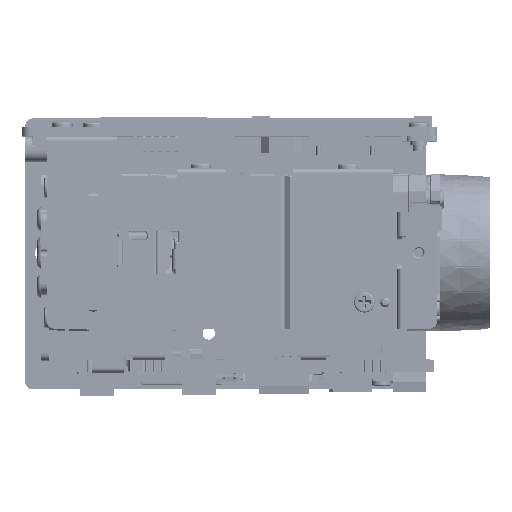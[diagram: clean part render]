
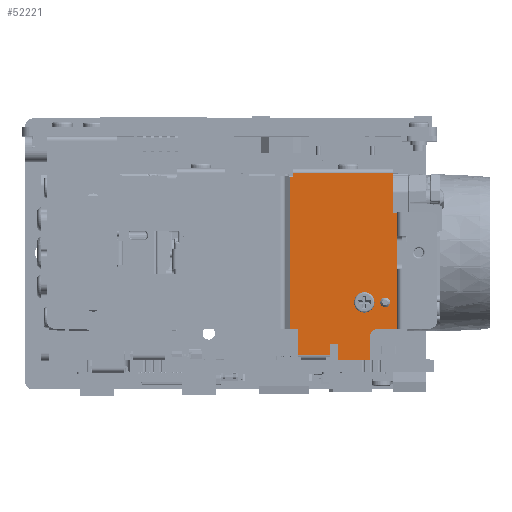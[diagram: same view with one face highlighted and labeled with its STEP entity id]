
A CAD part, top view. The second image highlights one B-rep face of the part: STEP entity #52221.
In plain terms, the highlighted planar face has unit normal (0, 0, 1) as drawn and (0, 1, 0) by its records, which use the part's own axes.
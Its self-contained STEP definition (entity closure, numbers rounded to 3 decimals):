
#42927 = EDGE_CURVE( '', #96964, #96965, #96966, .T. );
#43021 = EDGE_CURVE( '', #97111, #97112, #97113, .T. );
#43754 = EDGE_CURVE( '', #98285, #98286, #98287, .T. );
#49895 = EDGE_CURVE( '', #100875, #107837, #107838, .T. );
#50829 = EDGE_CURVE( '', #109273, #109273, #109274, .T. );
#52221 = ADVANCED_FACE( '', ( #111438, #111439, #111440 ), #111441, .F. );
#53229 = EDGE_CURVE( '', #100642, #97112, #112984, .T. );
#53245 = EDGE_CURVE( '', #103213, #113007, #113008, .T. );
#53663 = EDGE_CURVE( '', #113636, #103213, #113637, .T. );
#54153 = EDGE_CURVE( '', #114374, #98285, #114375, .T. );
#56518 = EDGE_CURVE( '', #113007, #117923, #117924, .T. );
#58389 = EDGE_CURVE( '', #97111, #114374, #120739, .T. );
#59863 = EDGE_CURVE( '', #92799, #122929, #122930, .T. );
#61836 = EDGE_CURVE( '', #122929, #125857, #125858, .T. );
#66226 = EDGE_CURVE( '', #100642, #125857, #132376, .T. );
#66350 = EDGE_CURVE( '', #117923, #92799, #132571, .T. );
#67331 = EDGE_CURVE( '', #134027, #134027, #134028, .T. );
#74687 = EDGE_CURVE( '', #107837, #98286, #144831, .T. );
#81719 = EDGE_CURVE( '', #96964, #100875, #155170, .T. );
#82209 = EDGE_CURVE( '', #96965, #113636, #155889, .T. );
#92799 = VERTEX_POINT( '', #163377 );
#96964 = VERTEX_POINT( '', #173681 );
#96965 = VERTEX_POINT( '', #173682 );
#96966 = LINE( '', #173683, #173684 );
#97111 = VERTEX_POINT( '', #174153 );
#97112 = VERTEX_POINT( '', #174154 );
#97113 = LINE( '', #174155, #174156 );
#98285 = VERTEX_POINT( '', #176603 );
#98286 = VERTEX_POINT( '', #176604 );
#98287 = LINE( '', #176605, #176606 );
#100642 = VERTEX_POINT( '', #181364 );
#100875 = VERTEX_POINT( '', #181906 );
#103213 = VERTEX_POINT( '', #186221 );
#107837 = VERTEX_POINT( '', #197109 );
#107838 = LINE( '', #197110, #197111 );
#109273 = VERTEX_POINT( '', #200469 );
#109274 = CIRCLE( '', #200470, 0.8 );
#111438 = FACE_OUTER_BOUND( '', #208188, .T. );
#111439 = FACE_BOUND( '', #208189, .T. );
#111440 = FACE_BOUND( '', #208190, .T. );
#111441 = PLANE( '', #208191 );
#112984 = LINE( '', #212525, #212526 );
#113007 = VERTEX_POINT( '', #212579 );
#113008 = LINE( '', #212580, #212581 );
#113636 = VERTEX_POINT( '', #214076 );
#113637 = LINE( '', #214077, #214078 );
#114374 = VERTEX_POINT( '', #215602 );
#114375 = LINE( '', #215603, #215604 );
#117923 = VERTEX_POINT( '', #223721 );
#117924 = LINE( '', #223722, #223723 );
#120739 = LINE( '', #231299, #231300 );
#122929 = VERTEX_POINT( '', #236449 );
#122930 = LINE( '', #236450, #236451 );
#125857 = VERTEX_POINT( '', #243362 );
#125858 = LINE( '', #243363, #243364 );
#132376 = CIRCLE( '', #260991, 1. );
#132571 = LINE( '', #261207, #261208 );
#134027 = VERTEX_POINT( '', #264501 );
#134028 = CIRCLE( '', #264502, 0.6 );
#144831 = LINE( '', #290897, #290898 );
#155170 = LINE( '', #321702, #321703 );
#155889 = LINE( '', #323079, #323080 );
#163377 = CARTESIAN_POINT( '', ( -14.4, 11.4, 34.604 ) );
#173681 = CARTESIAN_POINT( '', ( -9.5, 11.4, 28.604 ) );
#173682 = CARTESIAN_POINT( '', ( -9.5, 11.4, 29.604 ) );
#173683 = CARTESIAN_POINT( '', ( -9.5, 11.4, 28.604 ) );
#173684 = VECTOR( '', #342866, 1000. );
#174153 = CARTESIAN_POINT( '', ( 5., 11.4, 42.004 ) );
#174154 = CARTESIAN_POINT( '', ( -9.5, 11.4, 42.004 ) );
#174155 = CARTESIAN_POINT( '', ( 5., 11.4, 42.004 ) );
#174156 = VECTOR( '', #343184, 1000. );
#176603 = CARTESIAN_POINT( '', ( 9.9, 11.4, 41.504 ) );
#176604 = CARTESIAN_POINT( '', ( 9.9, 11.4, 29.004 ) );
#176605 = CARTESIAN_POINT( '', ( 9.9, 11.4, 41.504 ) );
#176606 = VECTOR( '', #346320, 1000. );
#181364 = CARTESIAN_POINT( '', ( -9.5, 11.4, 39.604 ) );
#181906 = CARTESIAN_POINT( '', ( 9.5, 11.4, 28.604 ) );
#186221 = CARTESIAN_POINT( '', ( -12.8, 11.4, 33.604 ) );
#197109 = CARTESIAN_POINT( '', ( 9.5, 11.4, 29.004 ) );
#197110 = CARTESIAN_POINT( '', ( 9.5, 11.4, 28.604 ) );
#197111 = VECTOR( '', #370563, 1000. );
#200469 = CARTESIAN_POINT( '', ( -6.2, 11.4, 37.104 ) );
#200470 = AXIS2_PLACEMENT_3D( '', #374309, #374310, #374311 );
#208188 = EDGE_LOOP( '', ( #380262, #380263, #380264, #380265, #380266, #380267, #380268, #380269, #380270, #380271, #380272, #380273, #380274, #380275, #380276, #380277, #380278 ) );
#208189 = EDGE_LOOP( '', ( #380279 ) );
#208190 = EDGE_LOOP( '', ( #380280 ) );
#208191 = AXIS2_PLACEMENT_3D( '', #380281, #380282, #380283 );
#212525 = CARTESIAN_POINT( '', ( -9.5, 11.4, 39.604 ) );
#212526 = VECTOR( '', #384407, 1000. );
#212579 = CARTESIAN_POINT( '', ( -11.4, 11.4, 33.604 ) );
#212580 = CARTESIAN_POINT( '', ( -12.8, 11.4, 33.604 ) );
#212581 = VECTOR( '', #384462, 1000. );
#214076 = CARTESIAN_POINT( '', ( -12.8, 11.4, 29.604 ) );
#214077 = CARTESIAN_POINT( '', ( -12.8, 11.4, 29.604 ) );
#214078 = VECTOR( '', #386088, 1000. );
#215602 = CARTESIAN_POINT( '', ( 5., 11.4, 41.504 ) );
#215603 = CARTESIAN_POINT( '', ( 5., 11.4, 41.504 ) );
#215604 = VECTOR( '', #388097, 1000. );
#223721 = CARTESIAN_POINT( '', ( -11.4, 11.4, 34.604 ) );
#223722 = CARTESIAN_POINT( '', ( -11.4, 11.4, 33.604 ) );
#223723 = VECTOR( '', #397583, 1000. );
#231299 = CARTESIAN_POINT( '', ( 5., 11.4, 42.004 ) );
#231300 = VECTOR( '', #404795, 1000. );
#236449 = CARTESIAN_POINT( '', ( -14.4, 11.4, 38.604 ) );
#236450 = CARTESIAN_POINT( '', ( -14.4, 11.4, 34.604 ) );
#236451 = VECTOR( '', #410436, 1000. );
#243362 = CARTESIAN_POINT( '', ( -10.5, 11.4, 38.604 ) );
#243363 = CARTESIAN_POINT( '', ( -14.4, 11.4, 38.604 ) );
#243364 = VECTOR( '', #418299, 1000. );
#260991 = AXIS2_PLACEMENT_3D( '', #435697, #435698, #435699 );
#261207 = CARTESIAN_POINT( '', ( -11.4, 11.4, 34.604 ) );
#261208 = VECTOR( '', #436195, 1000. );
#264501 = CARTESIAN_POINT( '', ( -5.6, 11.4, 40.504 ) );
#264502 = AXIS2_PLACEMENT_3D( '', #440121, #440122, #440123 );
#290897 = CARTESIAN_POINT( '', ( 9.5, 11.4, 29.004 ) );
#290898 = VECTOR( '', #469512, 1000. );
#321702 = CARTESIAN_POINT( '', ( -9.5, 11.4, 28.604 ) );
#321703 = VECTOR( '', #498241, 1000. );
#323079 = CARTESIAN_POINT( '', ( -9.5, 11.4, 29.604 ) );
#323080 = VECTOR( '', #500140, 1000. );
#342866 = DIRECTION( '', ( 0., 0., 1. ) );
#343184 = DIRECTION( '', ( -1., 0., 0. ) );
#346320 = DIRECTION( '', ( 0., 0., -1. ) );
#370563 = DIRECTION( '', ( 0., 0., 1. ) );
#374309 = CARTESIAN_POINT( '', ( -6.2, 11.4, 37.904 ) );
#374310 = DIRECTION( '', ( 0., 1., 0. ) );
#374311 = DIRECTION( '', ( 0., 0., -1. ) );
#380262 = ORIENTED_EDGE( '', *, *, #54153, .T. );
#380263 = ORIENTED_EDGE( '', *, *, #43754, .T. );
#380264 = ORIENTED_EDGE( '', *, *, #74687, .F. );
#380265 = ORIENTED_EDGE( '', *, *, #49895, .F. );
#380266 = ORIENTED_EDGE( '', *, *, #81719, .F. );
#380267 = ORIENTED_EDGE( '', *, *, #42927, .T. );
#380268 = ORIENTED_EDGE( '', *, *, #82209, .T. );
#380269 = ORIENTED_EDGE( '', *, *, #53663, .T. );
#380270 = ORIENTED_EDGE( '', *, *, #53245, .T. );
#380271 = ORIENTED_EDGE( '', *, *, #56518, .T. );
#380272 = ORIENTED_EDGE( '', *, *, #66350, .T. );
#380273 = ORIENTED_EDGE( '', *, *, #59863, .T. );
#380274 = ORIENTED_EDGE( '', *, *, #61836, .T. );
#380275 = ORIENTED_EDGE( '', *, *, #66226, .F. );
#380276 = ORIENTED_EDGE( '', *, *, #53229, .T. );
#380277 = ORIENTED_EDGE( '', *, *, #43021, .F. );
#380278 = ORIENTED_EDGE( '', *, *, #58389, .T. );
#380279 = ORIENTED_EDGE( '', *, *, #67331, .F. );
#380280 = ORIENTED_EDGE( '', *, *, #50829, .F. );
#380281 = CARTESIAN_POINT( '', ( 0., 11.4, 28.604 ) );
#380282 = DIRECTION( '', ( 0., -1., 0. ) );
#380283 = DIRECTION( '', ( 0., 0., -1. ) );
#384407 = DIRECTION( '', ( 0., 0., 1. ) );
#384462 = DIRECTION( '', ( 1., 0., 0. ) );
#386088 = DIRECTION( '', ( 0., 0., 1. ) );
#388097 = DIRECTION( '', ( 1., 0., 0. ) );
#397583 = DIRECTION( '', ( 0., 0., 1. ) );
#404795 = DIRECTION( '', ( 0., 0., -1. ) );
#410436 = DIRECTION( '', ( 0., 0., 1. ) );
#418299 = DIRECTION( '', ( 1., 0., 0. ) );
#435697 = CARTESIAN_POINT( '', ( -10.5, 11.4, 39.604 ) );
#435698 = DIRECTION( '', ( 0., 1., 0. ) );
#435699 = DIRECTION( '', ( 1., 0., 0. ) );
#436195 = DIRECTION( '', ( -1., 0., 0. ) );
#440121 = CARTESIAN_POINT( '', ( -6.2, 11.4, 40.504 ) );
#440122 = DIRECTION( '', ( 0., 1., 0. ) );
#440123 = DIRECTION( '', ( 1., 0., 0. ) );
#469512 = DIRECTION( '', ( 1., 0., 0. ) );
#498241 = DIRECTION( '', ( 1., 0., 0. ) );
#500140 = DIRECTION( '', ( -1., 0., 0. ) );
